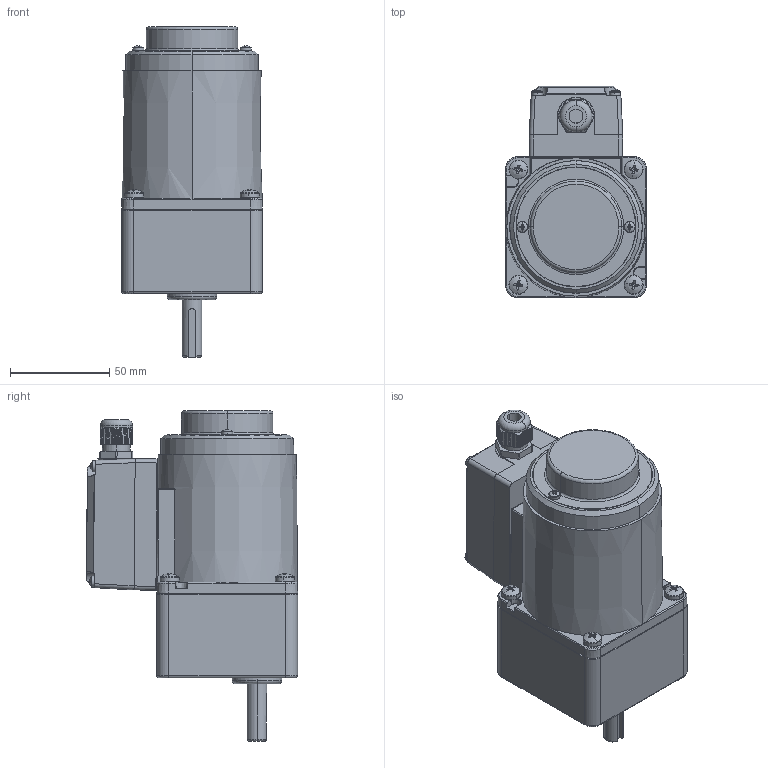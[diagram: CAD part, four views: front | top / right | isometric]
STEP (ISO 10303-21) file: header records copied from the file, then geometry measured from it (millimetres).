
FILE_DESCRIPTION (( 'STEP AP203' ), '1' );
FILE_NAME ('3IK15RGN-CT(3GN3K-200K).STEP', '2023-08-08T03:11:25', ( 'Windows User' ), ( 'P R C' ), 'SwSTEP 2.0', 'SolidWorks 2019', '' );
FILE_SCHEMA (( 'CONFIG_CONTROL_DESIGN' ));
Length unit declared in the file: millimetre
Products named in the file (23): ^__3IK15RGN-CT___3IK15RGN-CT(3GN3K-200K)(2)_3IK15RGN-CT(3GN3K-200K); ^__葩璃 (3) __3IK15RGN-CT___3IK15RGN-CT(3GN3K-200K)(2)_3IK15RGN-CT(3GN3K-200K); 3IK15RGN-CT(3GN3K-200K); 葩璃 (3) ^_葩璃 (2) __3IK15RGN-CT___3IK15RGN-CT(3GN3K-200K)(2)_3IK15RGN-CT(3GN3K-200K); ^_3IK15RGN-CT___3IK15RGN-CT(3GN3K-200K)(2)_3IK15RGN-CT(3GN3K-200K); 葩璃 (2) ^_葩璃 (3) __3IK15RGN-CT___3IK15RGN-CT(3GN3K-200K)(2)_3IK15RGN-CT(3GN3K-200K); ^_葩璃 (3) __3IK15RGN-CT___3IK15RGN-CT(3GN3K-200K)(2)_3IK15RGN-CT(3GN3K-200K); ^3IK15RGN-CT(3GN3K-200K)(2)_3IK15RGN-CT(3GN3K-200K); 葩璃 (3) ^_3IK15RGN-CT___3IK15RGN-CT(3GN3K-200K)(2)_3IK15RGN-CT(3GN3K-200K); ^葩璃 (2) __3IK15RGN-CT___3IK15RGN-CT(3GN3K-200K)(2)_3IK15RGN-CT(3GN3K-200K); ^3IK15RGN-CT___3IK15RGN-CT(3GN3K-200K)(2)_3IK15RGN-CT(3GN3K-200K); 葩璃 (2) ^_3IK15RGN-CT___3IK15RGN-CT(3GN3K-200K)(2)_3IK15RGN-CT(3GN3K-200K); ^_3IK15RGN-CT(3GN3K-200K)(2)_3IK15RGN-CT(3GN3K-200K); ^____3IK15RGN-CT___3IK15RGN-CT(3GN3K-200K)(2)_3IK15RGN-CT(3GN3K-200K); 3IK15RGN-CT(3GN3K-200K)(2)^3IK15RGN-CT(3GN3K-200K); ^葩璃 (3) __3IK15RGN-CT___3IK15RGN-CT(3GN3K-200K)(2)_3IK15RGN-CT(3GN3K-200K); ^_葩璃 (2) __3IK15RGN-CT___3IK15RGN-CT(3GN3K-200K)(2)_3IK15RGN-CT(3GN3K-200K); ^___3IK15RGN-CT___3IK15RGN-CT(3GN3K-200K)(2)_3IK15RGN-CT(3GN3K-200K); 葩璃 (2) ^_葩璃 (2) __3IK15RGN-CT___3IK15RGN-CT(3GN3K-200K)(2)_3IK15RGN-CT(3GN3K-200K); 3GN3k-200K^3IK15RGN-CT(3GN3K-200K)(2)_3IK15RGN-CT(3GN3K-200K); 3IK15RGN-CT^__3IK15RGN-CT(3GN3K-200K)(2)_3IK15RGN-CT(3GN3K-200K)
Assembly tree (28 placements, depth 10):
  3IK15RGN-CT(3GN3K-200K)
    3IK15RGN-CT(3GN3K-200K)(2)^3IK15RGN-CT(3GN3K-200K)
      ^3IK15RGN-CT(3GN3K-200K)(2)_3IK15RGN-CT(3GN3K-200K)
        ^_3IK15RGN-CT(3GN3K-200K)(2)_3IK15RGN-CT(3GN3K-200K)
          3IK15RGN-CT^__3IK15RGN-CT(3GN3K-200K)(2)_3IK15RGN-CT(3GN3K-200K)
            ^3IK15RGN-CT___3IK15RGN-CT(3GN3K-200K)(2)_3IK15RGN-CT(3GN3K-200K)
              ^_3IK15RGN-CT___3IK15RGN-CT(3GN3K-200K)(2)_3IK15RGN-CT(3GN3K-200K)
                ^__3IK15RGN-CT___3IK15RGN-CT(3GN3K-200K)(2)_3IK15RGN-CT(3GN3K-200K)
                  ^___3IK15RGN-CT___3IK15RGN-CT(3GN3K-200K)(2)_3IK15RGN-CT(3GN3K-200K)
              葩璃 (2) ^_3IK15RGN-CT___3IK15RGN-CT(3GN3K-200K)(2)_3IK15RGN-CT(3GN3K-200K)
                ^葩璃 (2) __3IK15RGN-CT___3IK15RGN-CT(3GN3K-200K)(2)_3IK15RGN-CT(3GN3K-200K)
                  ^_葩璃 (2) __3IK15RGN-CT___3IK15RGN-CT(3GN3K-200K)(2)_3IK15RGN-CT(3GN3K-200K)
                  葩璃 (2) ^_葩璃 (2) __3IK15RGN-CT___3IK15RGN-CT(3GN3K-200K)(2)_3IK15RGN-CT(3GN3K-200K)
                  葩璃 (3) ^_葩璃 (2) __3IK15RGN-CT___3IK15RGN-CT(3GN3K-200K)(2)_3IK15RGN-CT(3GN3K-200K)  x4
              葩璃 (3) ^_3IK15RGN-CT___3IK15RGN-CT(3GN3K-200K)(2)_3IK15RGN-CT(3GN3K-200K)
                ^葩璃 (3) __3IK15RGN-CT___3IK15RGN-CT(3GN3K-200K)(2)_3IK15RGN-CT(3GN3K-200K)
                  ^_葩璃 (3) __3IK15RGN-CT___3IK15RGN-CT(3GN3K-200K)(2)_3IK15RGN-CT(3GN3K-200K)
                  ^_葩璃 (3) __3IK15RGN-CT___3IK15RGN-CT(3GN3K-200K)(2)_3IK15RGN-CT(3GN3K-200K)
                  葩璃 (2) ^_葩璃 (3) __3IK15RGN-CT___3IK15RGN-CT(3GN3K-200K)(2)_3IK15RGN-CT(3GN3K-200K)
        ^_3IK15RGN-CT(3GN3K-200K)(2)_3IK15RGN-CT(3GN3K-200K)  x4
      3GN3k-200K^3IK15RGN-CT(3GN3K-200K)(2)_3IK15RGN-CT(3GN3K-200K)
Bounding box: 70.8 x 106.23 x 166.25 mm (x, y, z)
Volume: 631209.3 mm3; surface area: 87290.8 mm2
Topology: 15 solids, 15 shells, 2051 faces, 5301 edges, 3279 vertices
Faces by surface type: cone 890, cylinder 663, plane 331, torus 114, sphere 30, bspline 23
Entity records: 43894 total; most frequent: CARTESIAN_POINT 13325, DIRECTION 6268, ORIENTED_EDGE 5780, EDGE_CURVE 2890, AXIS2_PLACEMENT_3D 2615, VERTEX_POINT 1811, CIRCLE 1453, EDGE_LOOP 1209
